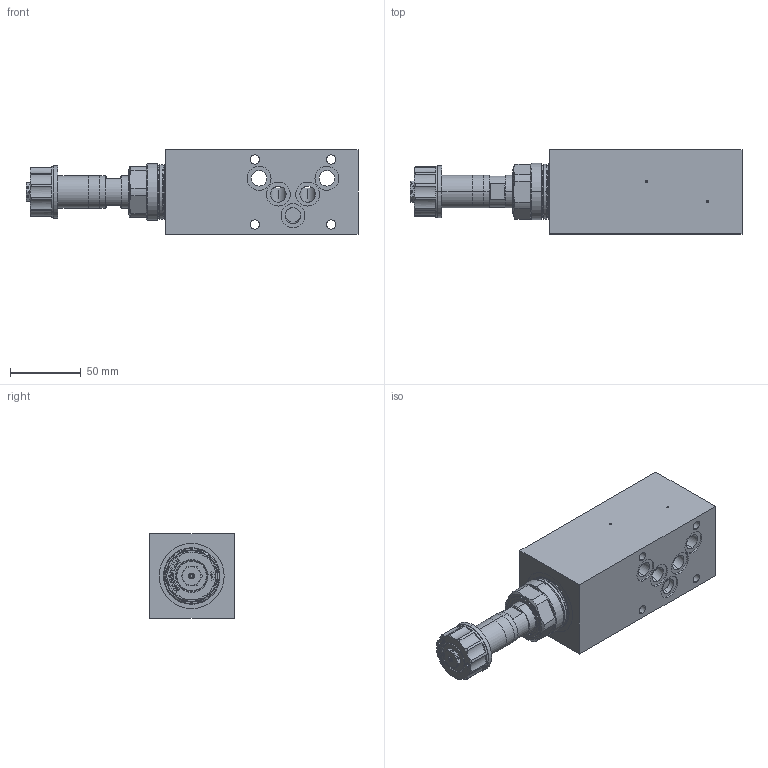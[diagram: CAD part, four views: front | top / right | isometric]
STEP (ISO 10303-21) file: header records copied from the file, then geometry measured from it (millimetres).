
FILE_DESCRIPTION (( 'STEP AP214' ), '1' );
FILE_NAME ('DNPSA10-T.STEP', '2017-04-19T10:53:00', ( '' ), ( '' ), 'SwSTEP 2.0', 'SolidWorks 2016', '' );
FILE_SCHEMA (( 'AUTOMOTIVE_DESIGN' ));
Length unit declared in the file: millimetre
Products named in the file (1): DNPSA10-T
Bounding box: 234.9 x 59.5 x 60 mm (x, y, z)
Volume: 519742.2 mm3; surface area: 68728.2 mm2
Topology: 2 solids, 3 shells, 414 faces, 1016 edges, 651 vertices
Faces by surface type: plane 186, cylinder 115, cone 79, bspline 16, torus 14, sphere 4
Entity records: 17700 total; most frequent: CARTESIAN_POINT 3511, DIRECTION 2024, ORIENTED_EDGE 2020, EDGE_CURVE 1010, AXIS2_PLACEMENT_3D 750, VERTEX_POINT 651, LINE 524, VECTOR 524
